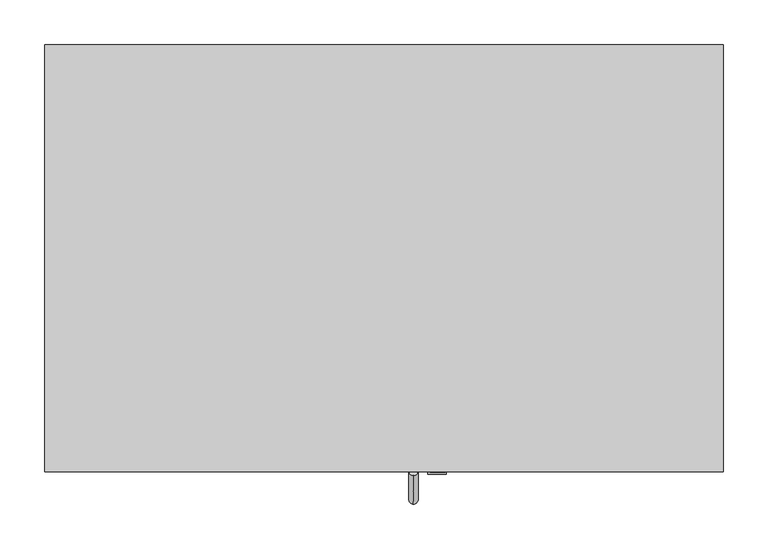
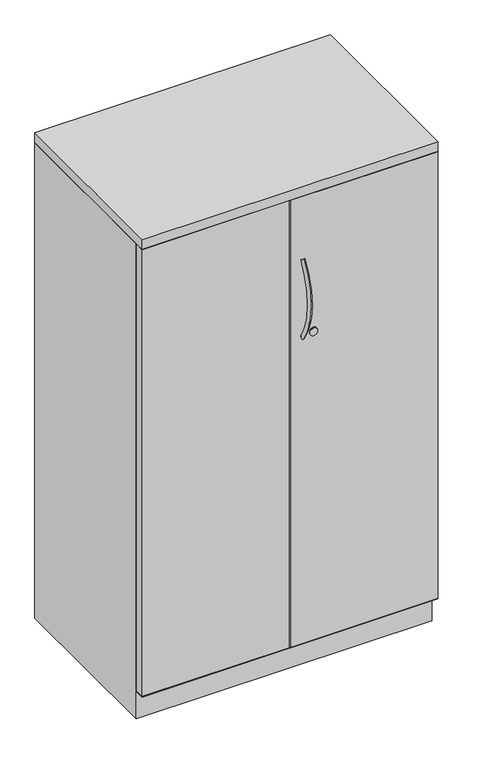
"""IFC4 building model written with IfcOpenShell, lengths in millimetres: furniture geometry, Steelcase - Universal Storage - Cabinet - Storage - 40H-52H - Proud Steel : 52H x 18D x 30W."""

from ifc_helpers import new_model, si_unit, point, frame, frame_2d, origin, place, context, project, spatial, polyline, circle_curve, ellipse_curve, trimmed, segment, composite_curve, outline, extrude, faceted_brep, source, transform, mapped, element, save
from ifc_brep_helpers import plane_surface, revolved_surface, advanced_brep


def furniture_431dea25(model_context):
    return source(origin(), model_context, "Body", "SolidModel", [
        extrude(outline(polyline([(762.0, 0.0), (762.0, -479.552), (0.0, -479.552), (0.0, 0.0), (762.0, 0.0)])), frame((0.0, 0.0, 1295.4), z_axis=(0.0, 0.0, 1.0), x_axis=(1.0, 0.0, 0.0)), (0.0, 0.0, 1.0), 25.4),
        extrude(outline(polyline([(0.0, -479.552), (0.0, -454.1528418), (378.46, -454.1528418), (378.46, -479.552), (0.0, -479.552)])), frame((0.0, 0.0, 77.724), z_axis=(0.0, 0.0, 1.0), x_axis=(1.0, 0.0, 0.0)), (0.0, 0.0, 1.0), 1216.152),
        extrude(outline(polyline([(762.0, -454.1528418), (762.0, -479.552), (383.54, -479.552), (383.54, -454.1528418), (762.0, -454.1528418)])), frame((0.0, 0.0, 77.724), z_axis=(0.0, 0.0, 1.0), x_axis=(1.0, 0.0, 0.0)), (0.0, 0.0, 1.0), 1216.152),
        extrude(outline(composite_curve([segment(trimmed(circle_curve(frame_2d((917.702, 440.5418131)), 10.16), [point((917.702, 450.7018131))], [point((917.702, 430.3818131))], False, "CARTESIAN"), True, "CONTINUOUS"), segment(trimmed(circle_curve(frame_2d((917.702, 440.5418131)), 10.16), [point((917.702, 430.3818131))], [point((917.702, 450.7018131))], False, "CARTESIAN"), True, "CONTINUOUS")], self_intersect=False)), frame((0.0, -481.965031, 0.0), z_axis=(0.0, 1.0, 0.0), x_axis=(0.0, 0.0, 1.0)), (0.0, 0.0, 1.0), 2.413031),
        advanced_brep(
        [(414.0783765, -474.9744318, 1119.7196018), (414.0783765, -483.5741633, 1125.3900503), (414.0783765, -472.5471581, 911.9931915), (414.0783765, -481.0120418, 906.1233437)],
        [
            (0, 1, circle_curve(frame((414.0783765, -479.2742976, 1122.5548261), z_axis=(0.0, 0.5504787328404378, 0.83484918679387), x_axis=(0.0, -0.83484918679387, 0.5504787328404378)), 5.1504701)),
            (1, 0, circle_curve(frame((414.0783765, -479.2742976, 1122.5548261), z_axis=(0.0, 0.5504787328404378, 0.83484918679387), x_axis=(0.0, -0.83484918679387, 0.5504787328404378)), 5.1504701)),
            (2, 3, circle_curve(frame((414.0783765, -476.7796, 909.0582676), z_axis=(0.0, 0.5698361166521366, -0.8217583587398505), x_axis=(0.0, -0.8217583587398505, -0.5698361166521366)), 5.1504701)),
            (3, 2, circle_curve(frame((414.0783765, -476.7796, 909.0582676), z_axis=(0.0, 0.5698361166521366, -0.8217583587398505), x_axis=(0.0, -0.8217583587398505, -0.5698361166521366)), 5.1504701)),
            (3, 1, circle_curve(frame((414.0783765, -320.178461, 1017.6509992), z_axis=(-1.0, 0.0, 0.0), x_axis=(0.0, -0.83484918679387, 0.5504787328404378)), 195.7188256)),
            (0, 2, circle_curve(frame((414.0783765, -320.178461, 1017.6509992), z_axis=(1.0, 0.0, 0.0), x_axis=(0.0, -0.83484918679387, 0.5504787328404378)), 185.4178854)),
        ],
        [
            plane_surface(frame((414.0783765, -479.2742976, 1122.5548261), z_axis=(0.0, 0.5504787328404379, 0.83484918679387), x_axis=(-1.0, 0.0, 0.0))),
            plane_surface(frame((414.0783765, -476.7796, 909.0582676), z_axis=(0.0, 0.5698361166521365, -0.8217583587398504), x_axis=(-1.0, 0.0, 0.0))),
            revolved_surface(trimmed(ellipse_curve(frame((414.0783765, -479.2742976, 1122.5548261), z_axis=(0.0, 0.5504787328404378, 0.83484918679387), x_axis=(0.0, -0.83484918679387, 0.5504787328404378)), 5.1504701, 5.1504701), [point((414.0783765, -474.9744318, 1119.7196018))], [point((414.0783765, -483.5741633, 1125.3900503))], True, "CARTESIAN"), (414.0783765, -320.178461, 1017.6509992), (1.0, 0.0, 0.0)),
            revolved_surface(trimmed(ellipse_curve(frame((414.0783765, -479.2742976, 1122.5548261), z_axis=(0.0, 0.5504787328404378, 0.83484918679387), x_axis=(0.0, -0.83484918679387, 0.5504787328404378)), 5.1504701, 5.1504701), [point((414.0783765, -483.5741633, 1125.3900503))], [point((414.0783765, -474.9744318, 1119.7196018))], True, "CARTESIAN"), (414.0783765, -320.178461, 1017.6509992), (1.0, 0.0, 0.0)),
        ],
        [
            (0, [[1, 2]]),
            (1, [[3, 4]]),
            (2, [[5, -1, 6, -4]]),
            (3, [[-6, -2, -5, -3]]),
        ],
    ),
        extrude(outline(composite_curve([segment(trimmed(circle_curve(frame_2d((919.3669832, 440.8109835)), 9.7167829), [point((919.3669832, 450.5277664))], [point((919.3669832, 431.0942006))], False, "CARTESIAN"), True, "CONTINUOUS"), segment(trimmed(circle_curve(frame_2d((919.3669832, 440.8109835)), 9.7167829), [point((919.3669832, 431.0942006))], [point((919.3669832, 450.5277664))], False, "CARTESIAN"), True, "CONTINUOUS")], self_intersect=False)), frame((0.0, -480.2215275, 0.0), z_axis=(0.0, 1.0, 0.0), x_axis=(0.0, 0.0, 1.0)), (0.0, 0.0, 1.0), 0.6695275),
        faceted_brep([(762.0, 0.0, 0.0), (762.0, -452.6288432, 0.0), (0.0, -452.6288432, 0.0), (0.0, 0.0, 0.0), (0.0, 0.0, 1293.876), (762.0, 0.0, 1293.876), (0.0, -452.6288432, 76.2), (0.0, -479.552, 76.2), (0.0, -479.552, 77.724), (0.0, -452.6288432, 77.724), (0.0, -452.6288432, 1293.876), (762.0, -452.6288432, 76.2), (762.0, -452.6288432, 1293.876), (762.0, -452.6288432, 77.724), (762.0, -479.4258418, 77.724), (762.0, -479.552, 76.2), (736.6000242, -25.4000008, 1293.876), (736.6000242, -452.6288432, 1293.876), (25.3999758, -452.6288432, 1293.876), (25.3999758, -25.4000008, 1293.876), (736.6000242, -25.4000008, 77.724), (736.6000242, -452.6288432, 77.724), (25.3999758, -452.6288432, 77.724), (25.3999758, -25.4000008, 77.724), (4.6981334, -454.1528418, 77.724), (736.6000242, -454.1528418, 77.724)], [[[0, 1, 2, 3]], [[0, 3, 4, 5]], [[4, 3, 2, 6, 7, 8, 9, 10]], [[2, 1, 11, 6]], [[1, 0, 5, 12, 13, 14, 15, 11]], [[16, 17, 12, 5, 4, 10, 18, 19]], [[17, 16, 20, 21]], [[12, 17, 21, 13]], [[18, 10, 9, 22]], [[19, 18, 22, 23]], [[16, 19, 23, 20]], [[8, 24, 25, 14, 13, 21, 20, 23, 22, 9]], [[15, 7, 6, 11]], [[24, 8, 7]], [[25, 24, 7, 15]], [[14, 25, 15]]]),
    ])


if __name__ == "__main__":
    model = new_model("IFC4")
    model_context = context("Model", 3, world=origin())
    ifc_project = project(units=[si_unit("LENGTHUNIT", "METRE", prefix="MILLI")], contexts=[model_context])
    site = spatial("IfcSite", under=ifc_project)
    building = spatial("IfcBuilding", under=site)
    placement = place(None, origin())
    furniture_shape = furniture_431dea25(model_context)
    element("IfcFurniture", 1, ObjectType="Steelcase - Universal Storage - Cabinet - Storage - 40H-52H - Proud Steel : 52H x 18D x 30W", at=placement, inside=building, context=model_context, shape_type="MappedRepresentation", body=[
        mapped(furniture_shape, transform((0.0, 0.0, 0.0), x_axis=(1.0, 0.0, 0.0), y_axis=(0.0, 1.0, 0.0), z_axis=(0.0, 0.0, 1.0))),
    ])
    save(model, "model.ifc")
